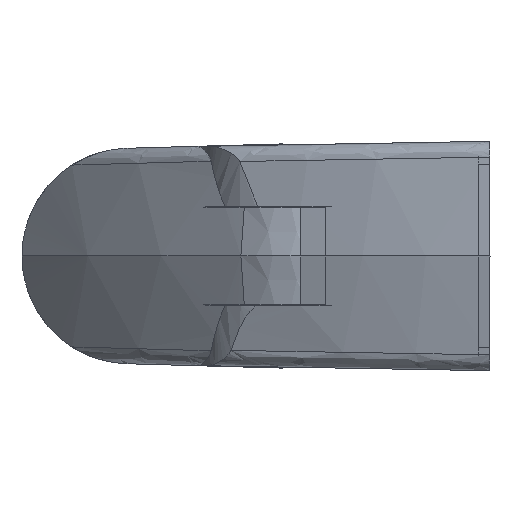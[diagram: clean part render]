
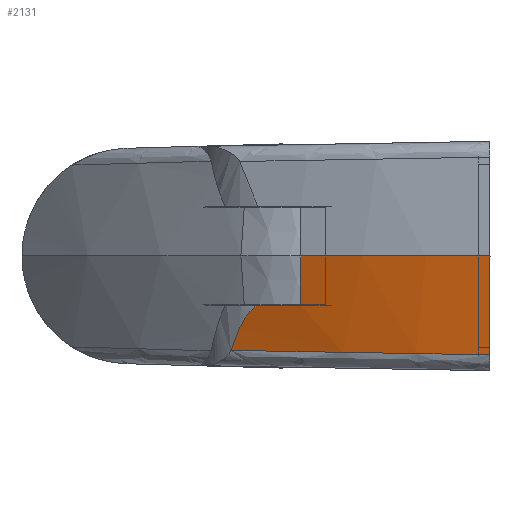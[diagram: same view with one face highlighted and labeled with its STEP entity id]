
A CAD part, left-side view. The second image highlights one B-rep face of the part: STEP entity #2131.
In plain terms, the highlighted conical face has half-angle 5.9 degrees and reference radius 172 mm.
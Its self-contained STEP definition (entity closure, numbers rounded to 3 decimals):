
#96 = B_SPLINE_CURVE_WITH_KNOTS ( 'NONE', 3,
 ( #15677, #3059, #10729, #6928, #11991, #15912, #8125, #1856, #14418, #10560, #4332, #14503 ),
 .UNSPECIFIED., .F., .F.,
 ( 4, 2, 2, 2, 2, 4 ),
 ( 0., 0.012, 0.023, 0.029, 0.035, 0.046 ),
 .UNSPECIFIED. ) ;
#159 = AXIS2_PLACEMENT_3D ( 'NONE', #6805, #5617, #11947 ) ;
#311 = VERTEX_POINT ( 'NONE', #4588 ) ;
#847 = ORIENTED_EDGE ( 'NONE', *, *, #6044, .T. ) ;
#979 = CARTESIAN_POINT ( 'NONE',  ( 32.574, 234.868, -14.532 ) ) ;
#984 = ORIENTED_EDGE ( 'NONE', *, *, #5697, .F. ) ;
#1025 = AXIS2_PLACEMENT_3D ( 'NONE', #5894, #14880, #13471 ) ;
#1155 = CARTESIAN_POINT ( 'NONE',  ( 29.836, 236.779, -9.333 ) ) ;
#1505 = CONICAL_SURFACE ( 'NONE', #159, 172., 0.103 ) ;
#1566 = CARTESIAN_POINT ( 'NONE',  ( 21.25, 240.619, -8.409 ) ) ;
#1603 = EDGE_CURVE ( 'NONE', #7234, #6202, #8692, .T. ) ;
#1812 = CARTESIAN_POINT ( 'NONE',  ( 21.25, 241.33, -2.024 ) ) ;
#1856 = CARTESIAN_POINT ( 'NONE',  ( 4.277, 245.591, -16.45 ) ) ;
#2118 = B_SPLINE_CURVE_WITH_KNOTS ( 'NONE', 3,
 ( #16293, #2503, #979, #4792, #3696, #11449, #2173, #14962, #1155, #3606, #16544, #16380 ),
 .UNSPECIFIED., .F., .F.,
 ( 4, 2, 2, 2, 2, 4 ),
 ( 0.003, 0.005, 0.008, 0.01, 0.011, 0.012 ),
 .UNSPECIFIED. ) ;
#2131 = ADVANCED_FACE ( 'NONE', ( #9662 ), #1505, .T. ) ;
#2173 = CARTESIAN_POINT ( 'NONE',  ( 30.716, 236.231, -10.496 ) ) ;
#2472 = VERTEX_POINT ( 'NONE', #7004 ) ;
#2503 = CARTESIAN_POINT ( 'NONE',  ( 32.823, 234.663, -15.241 ) ) ;
#2640 = B_SPLINE_CURVE_WITH_KNOTS ( 'NONE', 3,
 ( #1566, #3096, #15795, #5532, #9424, #1812, #14463 ),
 .UNSPECIFIED., .F., .F.,
 ( 4, 3, 4 ),
 ( 0.03, 0.033, 0.039 ),
 .UNSPECIFIED. ) ;
#3059 = CARTESIAN_POINT ( 'NONE',  ( 29.59, 236.18, -16.016 ) ) ;
#3096 = CARTESIAN_POINT ( 'NONE',  ( 21.25, 240.706, -7.63 ) ) ;
#3606 = CARTESIAN_POINT ( 'NONE',  ( 29.31, 237.082, -8.819 ) ) ;
#3696 = CARTESIAN_POINT ( 'NONE',  ( 31.734, 235.518, -12.451 ) ) ;
#3856 = EDGE_LOOP ( 'NONE', ( #6555, #6181, #4118, #984, #14651, #847 ) ) ;
#3870 = CARTESIAN_POINT ( 'NONE',  ( 28.705, 237.406, -8.426 ) ) ;
#3906 = CARTESIAN_POINT ( 'NONE',  ( -10.69, 249.124, -16.707 ) ) ;
#4118 = ORIENTED_EDGE ( 'NONE', *, *, #1603, .F. ) ;
#4332 = CARTESIAN_POINT ( 'NONE',  ( -6.925, 248.411, -16.642 ) ) ;
#4432 = CARTESIAN_POINT ( 'NONE',  ( 21.25, 240.619, -8.409 ) ) ;
#4588 = CARTESIAN_POINT ( 'NONE',  ( 28.705, 237.406, -8.426 ) ) ;
#4674 = EDGE_CURVE ( 'NONE', #8448, #9749, #2640, .T. ) ;
#4792 = CARTESIAN_POINT ( 'NONE',  ( 32.029, 235.296, -13.136 ) ) ;
#5532 = CARTESIAN_POINT ( 'NONE',  ( 21.25, 240.88, -6.072 ) ) ;
#5617 = DIRECTION ( 'NONE',  ( 0., 0., 1. ) ) ;
#5697 = EDGE_CURVE ( 'NONE', #9749, #7234, #10468, .T. ) ;
#5838 = CARTESIAN_POINT ( 'NONE',  ( -10.75, 250.893, 0. ) ) ;
#5886 = EDGE_CURVE ( 'NONE', #2472, #311, #2118, .T. ) ;
#5894 = CARTESIAN_POINT ( 'NONE',  ( -42.704, 81.888, 0. ) ) ;
#6044 = EDGE_CURVE ( 'NONE', #8448, #311, #10525, .T. ) ;
#6181 = ORIENTED_EDGE ( 'NONE', *, *, #9394, .T. ) ;
#6202 = VERTEX_POINT ( 'NONE', #3906 ) ;
#6360 = CARTESIAN_POINT ( 'NONE',  ( -10.729, 250.304, -5.569 ) ) ;
#6555 = ORIENTED_EDGE ( 'NONE', *, *, #5886, .F. ) ;
#6805 = CARTESIAN_POINT ( 'NONE',  ( -42.704, 81.888, 0. ) ) ;
#6928 = CARTESIAN_POINT ( 'NONE',  ( 18.927, 240.719, -16.199 ) ) ;
#7004 = CARTESIAN_POINT ( 'NONE',  ( 33.056, 234.465, -15.956 ) ) ;
#7234 = VERTEX_POINT ( 'NONE', #5838 ) ;
#7550 = CARTESIAN_POINT ( 'NONE',  ( -10.75, 250.893, 0. ) ) ;
#8125 = CARTESIAN_POINT ( 'NONE',  ( 7.982, 244.488, -16.386 ) ) ;
#8448 = VERTEX_POINT ( 'NONE', #15675 ) ;
#8692 = B_SPLINE_CURVE_WITH_KNOTS ( 'NONE', 3,
 ( #7550, #6360, #11506, #16599 ),
 .UNSPECIFIED., .F., .F.,
 ( 4, 4 ),
 ( 0., 0.017 ),
 .UNSPECIFIED. ) ;
#9394 = EDGE_CURVE ( 'NONE', #2472, #6202, #96, .T. ) ;
#9424 = CARTESIAN_POINT ( 'NONE',  ( 21.25, 241.105, -4.048 ) ) ;
#9563 = CARTESIAN_POINT ( 'NONE',  ( 23.76, 239.607, -8.415 ) ) ;
#9662 = FACE_OUTER_BOUND ( 'NONE', #3856, .T. ) ;
#9749 = VERTEX_POINT ( 'NONE', #13473 ) ;
#10468 = CIRCLE ( 'NONE', #1025, 172. ) ;
#10525 =( BOUNDED_CURVE ( )  B_SPLINE_CURVE ( 3, ( #4432, #9563, #15378, #3870 ),
 .UNSPECIFIED., .F., .F. ) 
 B_SPLINE_CURVE_WITH_KNOTS ( ( 4, 4 ),
 ( 1.954, 2.001 ),
 .UNSPECIFIED. ) 
 CURVE ( )  GEOMETRIC_REPRESENTATION_ITEM ( )  RATIONAL_B_SPLINE_CURVE ( ( 1., 1., 1., 1. ) ) 
 REPRESENTATION_ITEM ( '' )  );
#10560 = CARTESIAN_POINT ( 'NONE',  ( -3.178, 247.568, -16.578 ) ) ;
#10729 = CARTESIAN_POINT ( 'NONE',  ( 26.064, 237.776, -16.076 ) ) ;
#11449 = CARTESIAN_POINT ( 'NONE',  ( 31.077, 235.986, -11.132 ) ) ;
#11506 = CARTESIAN_POINT ( 'NONE',  ( -10.709, 249.714, -11.138 ) ) ;
#11947 = DIRECTION ( 'NONE',  ( 1., 0., 0. ) ) ;
#11991 = CARTESIAN_POINT ( 'NONE',  ( 15.312, 242.068, -16.261 ) ) ;
#13471 = DIRECTION ( 'NONE',  ( 1., 0., 0. ) ) ;
#13473 = CARTESIAN_POINT ( 'NONE',  ( 21.25, 241.556, 0. ) ) ;
#14418 = CARTESIAN_POINT ( 'NONE',  ( 2.415, 246.11, -16.482 ) ) ;
#14463 = CARTESIAN_POINT ( 'NONE',  ( 21.25, 241.556, 0. ) ) ;
#14503 = CARTESIAN_POINT ( 'NONE',  ( -10.69, 249.124, -16.707 ) ) ;
#14651 = ORIENTED_EDGE ( 'NONE', *, *, #4674, .F. ) ;
#14880 = DIRECTION ( 'NONE',  ( 0., 0., 1. ) ) ;
#14962 = CARTESIAN_POINT ( 'NONE',  ( 30.07, 236.637, -9.615 ) ) ;
#15378 = CARTESIAN_POINT ( 'NONE',  ( 26.246, 238.536, -8.42 ) ) ;
#15675 = CARTESIAN_POINT ( 'NONE',  ( 21.25, 240.619, -8.409 ) ) ;
#15677 = CARTESIAN_POINT ( 'NONE',  ( 33.056, 234.465, -15.956 ) ) ;
#15795 = CARTESIAN_POINT ( 'NONE',  ( 21.25, 240.793, -6.851 ) ) ;
#15912 = CARTESIAN_POINT ( 'NONE',  ( 9.823, 243.906, -16.355 ) ) ;
#16293 = CARTESIAN_POINT ( 'NONE',  ( 33.056, 234.465, -15.956 ) ) ;
#16380 = CARTESIAN_POINT ( 'NONE',  ( 28.705, 237.406, -8.426 ) ) ;
#16544 = CARTESIAN_POINT ( 'NONE',  ( 29.026, 237.239, -8.595 ) ) ;
#16599 = CARTESIAN_POINT ( 'NONE',  ( -10.69, 249.124, -16.707 ) ) ;
